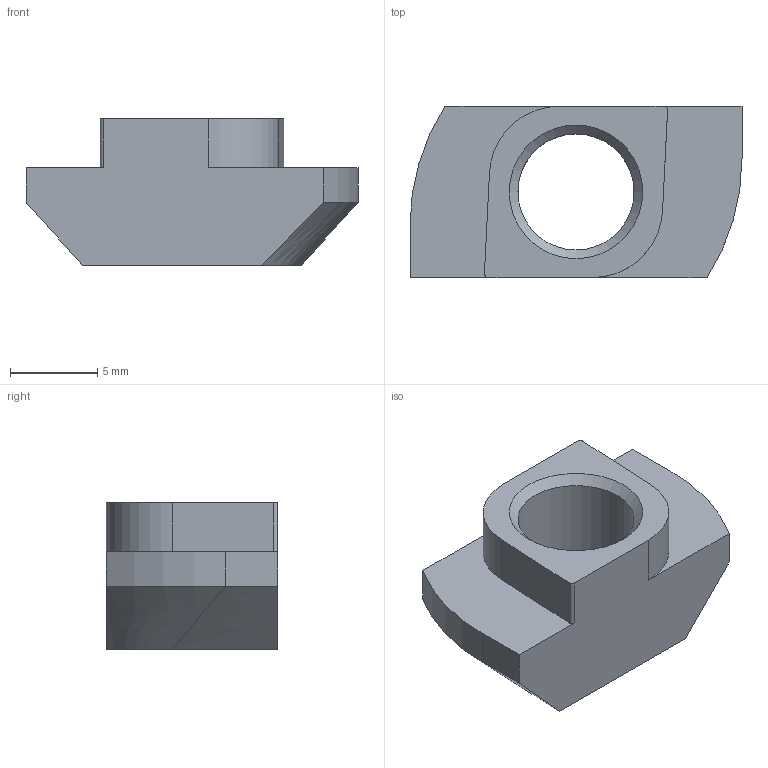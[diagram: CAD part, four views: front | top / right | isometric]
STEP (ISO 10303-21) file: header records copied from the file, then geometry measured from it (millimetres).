
FILE_DESCRIPTION((''),'2;1');
FILE_NAME('E:\catalogue and flyer\Profile catalogue 2015\Accessories JE info\Accessories-JE step file 31MAr16\JE-RN8-10.stp','2016-03-31T16:39:02',('h029'),(''),'Autodesk Inventor 11','Autodesk Inventor 11','');
FILE_SCHEMA(('AUTOMOTIVE_DESIGN { 1 0 10303 214 1 1 1 1 }'));
Length unit declared in the file: millimetre
Products named in the file (1): JE-RN8-10
Bounding box: 19 x 9.8 x 8.4 mm (x, y, z)
Volume: 841.3 mm3; surface area: 797.8 mm2
Topology: 1 solids, 1 shells, 22 faces, 58 edges, 38 vertices
Faces by surface type: plane 10, cylinder 6, bspline 5, cone 1
Entity records: 803 total; most frequent: CARTESIAN_POINT 249, ORIENTED_EDGE 110, DIRECTION 105, EDGE_CURVE 55, VERTEX_POINT 37, AXIS2_PLACEMENT_3D 35, VECTOR 35, LINE 35
